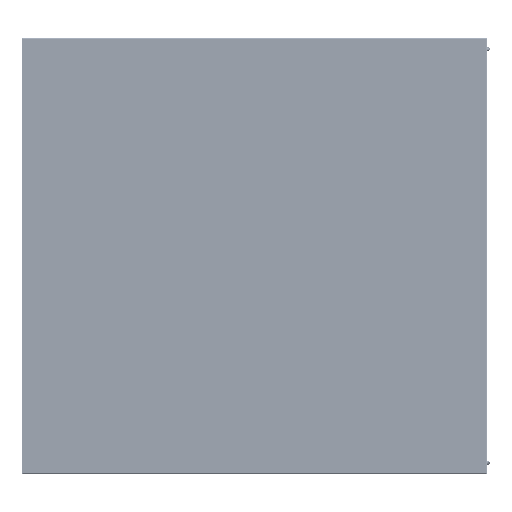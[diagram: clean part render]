
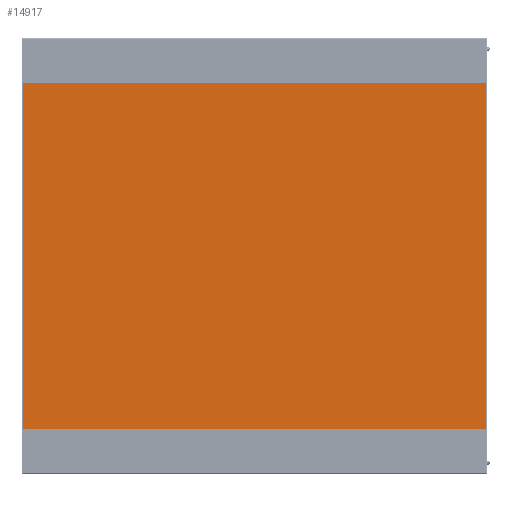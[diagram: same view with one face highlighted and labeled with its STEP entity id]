
A CAD part, left-side view. The second image highlights one B-rep face of the part: STEP entity #14917.
In plain terms, the highlighted planar face has unit normal (-1, 0, 0) as drawn and (0, 1, 0) by its records, which use the part's own axes.
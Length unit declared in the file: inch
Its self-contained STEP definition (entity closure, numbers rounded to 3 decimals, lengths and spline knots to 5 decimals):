
#14578=CARTESIAN_POINT('',(28.47,0.,35.866));
#14579=DIRECTION('',(0.,1.,0.));
#14580=DIRECTION('',(0.,0.,1.));
#14581=AXIS2_PLACEMENT_3D('',#14578,#14579,#14580);
#14586=CARTESIAN_POINT('',(-28.47,0.,35.866));
#14587=DIRECTION('',(0.,1.,0.));
#14588=DIRECTION('',(-1.,0.,0.));
#14589=AXIS2_PLACEMENT_3D('',#14586,#14587,#14588);
#14594=CARTESIAN_POINT('',(-28.47,0.,-40.65029));
#14595=DIRECTION('',(0.,1.,0.));
#14596=DIRECTION('',(0.,0.,-1.));
#14597=AXIS2_PLACEMENT_3D('',#14594,#14595,#14596);
#14602=DIRECTION('',(-1.,0.,0.));
#14603=VECTOR('',#14602,56.94);
#14604=CARTESIAN_POINT('',(28.47,0.,-40.68029));
#14605=LINE('',#14604,#14603);
#14609=CARTESIAN_POINT('',(28.47,0.,-40.65029));
#14610=DIRECTION('',(0.,1.,0.));
#14611=DIRECTION('',(1.,0.,0.));
#14612=AXIS2_PLACEMENT_3D('',#14609,#14610,#14611);
#14624=DIRECTION('',(0.,0.,-1.));
#14625=VECTOR('',#14624,76.51629);
#14626=CARTESIAN_POINT('',(28.5,0.,35.866));
#14627=LINE('',#14626,#14625);
#14680=DIRECTION('',(0.,0.,1.));
#14681=VECTOR('',#14680,76.51629);
#14682=CARTESIAN_POINT('',(-28.5,0.,-40.65029));
#14683=LINE('',#14682,#14681);
#14708=DIRECTION('',(-1.,0.,0.));
#14709=VECTOR('',#14708,56.94);
#14710=CARTESIAN_POINT('',(28.47,0.,35.896));
#14711=LINE('',#14710,#14709);
#14846=CARTESIAN_POINT('',(28.47,0.,35.896));
#14847=CARTESIAN_POINT('',(28.5,0.,35.866));
#14848=VERTEX_POINT('',#14846);
#14849=VERTEX_POINT('',#14847);
#14854=CARTESIAN_POINT('',(-28.5,0.,35.866));
#14855=CARTESIAN_POINT('',(-28.47,0.,35.896));
#14856=VERTEX_POINT('',#14854);
#14857=VERTEX_POINT('',#14855);
#14862=CARTESIAN_POINT('',(-28.5,0.,-40.65029));
#14863=VERTEX_POINT('',#14862);
#14864=CARTESIAN_POINT('',(28.5,0.,-40.65029));
#14865=VERTEX_POINT('',#14864);
#14870=CARTESIAN_POINT('',(-28.47,0.,-40.68029));
#14871=VERTEX_POINT('',#14870);
#14874=CARTESIAN_POINT('',(28.47,0.,-40.68029));
#14875=VERTEX_POINT('',#14874);
#14894=CARTESIAN_POINT('',(28.5,0.,35.896));
#14895=DIRECTION('',(0.,1.,0.));
#14896=DIRECTION('',(-1.,0.,0.));
#14897=AXIS2_PLACEMENT_3D('',#14894,#14895,#14896);
#14898=PLANE('',#14897);
#14900=ORIENTED_EDGE('',*,*,#14899,.F.);
#14902=ORIENTED_EDGE('',*,*,#14901,.T.);
#14904=ORIENTED_EDGE('',*,*,#14903,.F.);
#14906=ORIENTED_EDGE('',*,*,#14905,.F.);
#14908=ORIENTED_EDGE('',*,*,#14907,.F.);
#14910=ORIENTED_EDGE('',*,*,#14909,.F.);
#14912=ORIENTED_EDGE('',*,*,#14911,.F.);
#14914=ORIENTED_EDGE('',*,*,#14913,.F.);
#14915=EDGE_LOOP('',(#14900,#14902,#14904,#14906,#14908,#14910,#14912,#14914));
#14916=FACE_OUTER_BOUND('',#14915,.F.);
#14582=CIRCLE('',#14581,0.03);
#14590=CIRCLE('',#14589,0.03);
#14598=CIRCLE('',#14597,0.03);
#14613=CIRCLE('',#14612,0.03);
#14899=EDGE_CURVE('',#14848,#14849,#14582,.T.);
#14901=EDGE_CURVE('',#14848,#14857,#14711,.T.);
#14903=EDGE_CURVE('',#14856,#14857,#14590,.T.);
#14905=EDGE_CURVE('',#14863,#14856,#14683,.T.);
#14907=EDGE_CURVE('',#14871,#14863,#14598,.T.);
#14909=EDGE_CURVE('',#14875,#14871,#14605,.T.);
#14911=EDGE_CURVE('',#14865,#14875,#14613,.T.);
#14913=EDGE_CURVE('',#14849,#14865,#14627,.T.);
#14917=ADVANCED_FACE('',(#14916),#14898,.T.);
